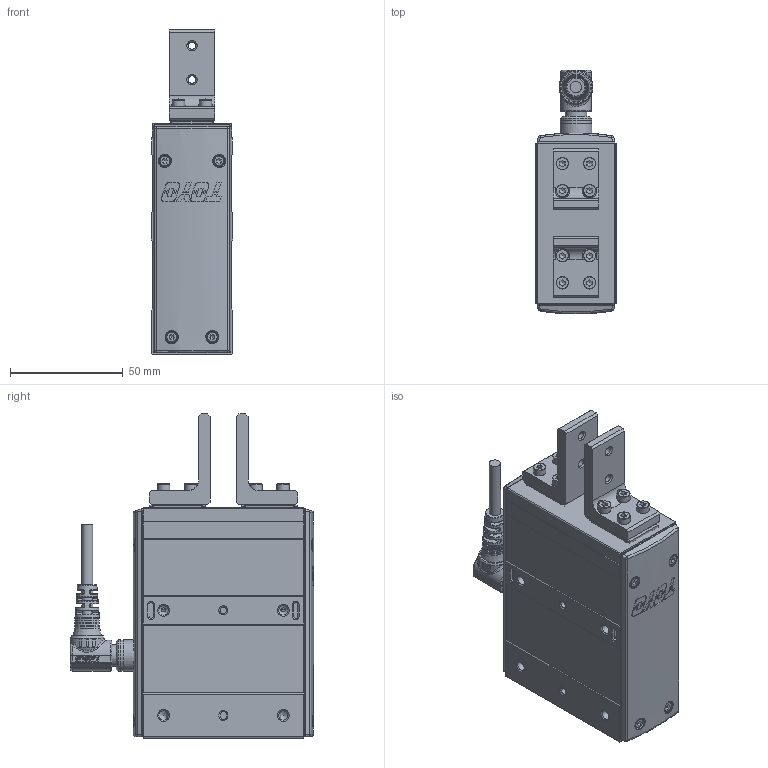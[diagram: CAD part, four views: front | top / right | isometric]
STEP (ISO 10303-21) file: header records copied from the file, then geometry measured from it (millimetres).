
FILE_DESCRIPTION(/* description */ ('STEP AP214'),/* implementation_level */ '2;1');
FILE_NAME(/* name */ 'D:\2025.02.25 帶電匯整給泊舟\CHZ2-N14-WM.stp',/* time_stamp */ '2025-02-26T10:48:07+08:00',/* author */ ('T10033'),/* organization */ (''),/* preprocessor_version */ 'ST-DEVELOPER v18.1',/* originating_system */ 'Autodesk Inventor 2020',/* authorisation */ '');
FILE_SCHEMA (('CONFIG_CONTROL_DESIGN'));
Products named in the file (8): CHZ2-S14; 慶陞金屬頭; 62TW34T6SE34_Shrinkwrap_1; 6T3Y7E45_Shrinkwrap_1; M12-14PIN 線端90度接頭-05中繼線; 43Y345YED45R; 12021-000016; socket head cap screw_iso_ISO 4762 M3 x 12 - 12C
Assembly tree (12 placements, depth 3):
  CHZ2-S14
    慶陞金屬頭
    62TW34T6SE34_Shrinkwrap_1
    6T3Y7E45_Shrinkwrap_1  x2
    M12-14PIN 線端90度接頭-05中繼線
    43Y345YED45R  x2
      12021-000016
      socket head cap screw_iso_ISO 4762 M3 x 12 - 12C
Bounding box: 36 x 107.8 x 143.5 mm (x, y, z)
Volume: 300904.1 mm3; surface area: 69238.8 mm2
Topology: 47 solids, 51 shells, 2924 faces, 7848 edges, 5145 vertices
Faces by surface type: plane 1676, cylinder 544, cone 402, bspline 157, torus 125, sphere 20
Full cylindrical faces by diameter (mm): 0.6 x14, 0.65 x14, 1 x18, 2.05 x16, 2.5 x20, 2.7 x8, 3 x17, 3.2 x8, 3.3 x4, 4.2 x12, 4.5 x8, 4.7 x4, 5 x1, 5.5 x10, 6.8 x2, 8 x1, 8.9 x1, 9.5 x2, 9.6 x1, 10.5 x2, 10.9 x1, 11 x2, 11.2 x1, 11.25 x1, 12 x1, 13 x1, 13.8 x1, 14 x2, 14.4 x1
Entity records: 115843 total; most frequent: CARTESIAN_POINT 47029, DIRECTION 13932, ORIENTED_EDGE 13868, EDGE_CURVE 6942, AXIS2_PLACEMENT_3D 5140, VERTEX_POINT 4581, LINE 3652, VECTOR 3652
